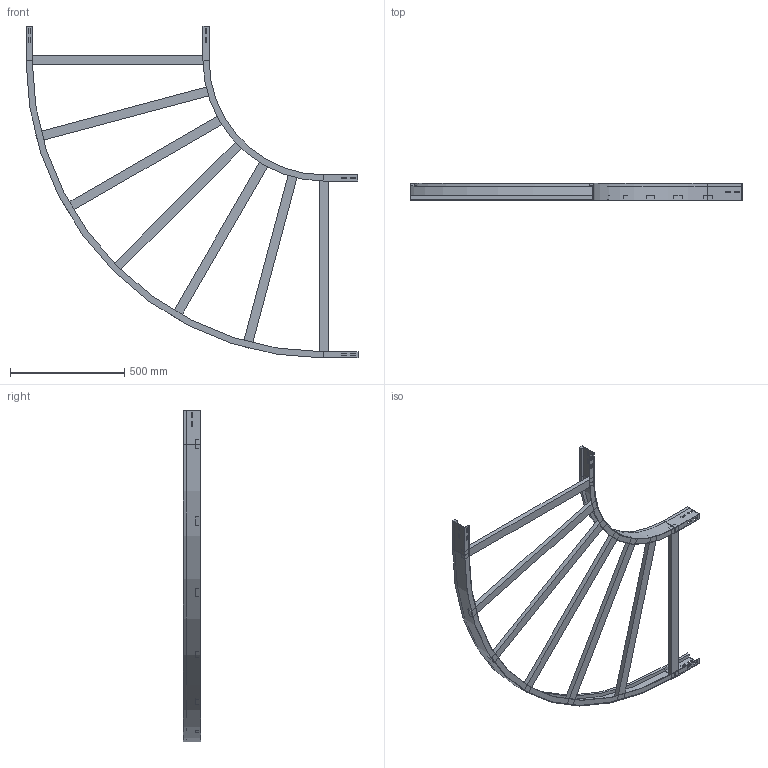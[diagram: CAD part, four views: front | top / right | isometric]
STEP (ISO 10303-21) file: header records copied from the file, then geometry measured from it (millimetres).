
FILE_DESCRIPTION (( 'STEP AP214' ), '1' );
FILE_NAME ('10B5C800.step', '2025-02-21T15:26:04', ( '' ), ( '' ), 'SwSTEP 2.0', 'SolidWorks 2023', '' );
FILE_SCHEMA (( 'AUTOMOTIVE_DESIGN' ));
Length unit declared in the file: millimetre
Products named in the file (4): 10B5C800; A2_LONGH.INTERNO 90°_H75_R500; A2_LONGH.ESTERNO 90°_H75_R500+800; TRAVERSINO_800
Assembly tree (9 placements, depth 2):
  10B5C800
    A2_LONGH.INTERNO 90°_H75_R500
    A2_LONGH.ESTERNO 90°_H75_R500+800
    TRAVERSINO_800  x7
Bounding box: 1450 x 75 x 1450 mm (x, y, z)
Volume: 5851945.9 mm3; surface area: 1492922.3 mm2
Topology: 9 solids, 9 shells, 158 faces, 388 edges, 248 vertices
Faces by surface type: plane 150, cylinder 8
Entity records: 3853 total; most frequent: CARTESIAN_POINT 650, ORIENTED_EDGE 632, DIRECTION 600, EDGE_CURVE 316, VECTOR 300, LINE 300, VERTEX_POINT 200, EDGE_LOOP 154
